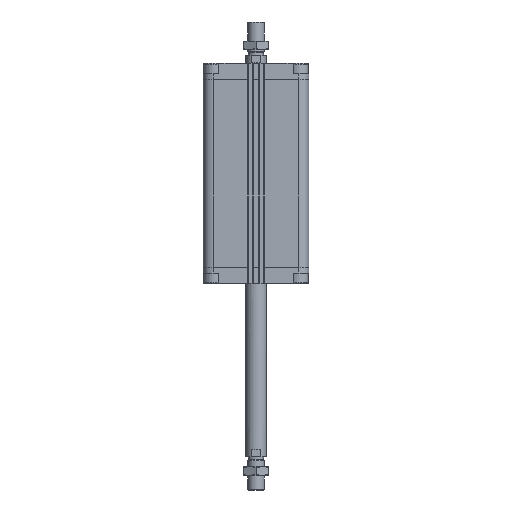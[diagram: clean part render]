
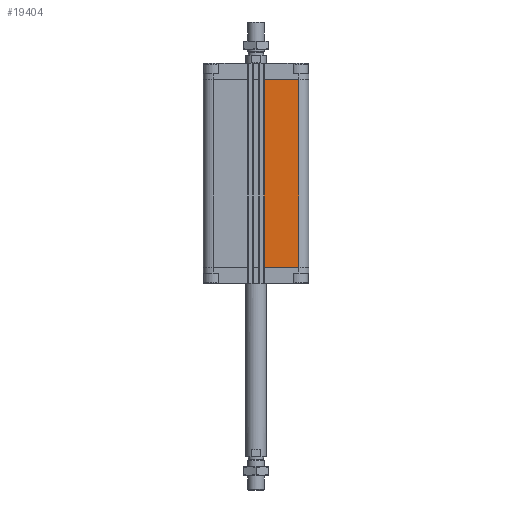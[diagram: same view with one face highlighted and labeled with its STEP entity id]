
A CAD part, front view. The second image highlights one B-rep face of the part: STEP entity #19404.
In plain terms, the highlighted planar face has unit normal (0, -1, 0).
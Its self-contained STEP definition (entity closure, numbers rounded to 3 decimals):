
#291 = CARTESIAN_POINT ( 'NONE',  ( 51.5, -64., -247. ) ) ;
#1529 = LINE ( 'NONE', #8654, #6081 ) ;
#1570 = EDGE_CURVE ( 'NONE', #6529, #17184, #1529, .T. ) ;
#2169 = CARTESIAN_POINT ( 'NONE',  ( 9.95, -64., -19.5 ) ) ;
#3032 = EDGE_CURVE ( 'NONE', #18919, #6529, #10378, .T. ) ;
#3599 = CARTESIAN_POINT ( 'NONE',  ( 51.5, -64., -19.5 ) ) ;
#3695 = VECTOR ( 'NONE', #8116, 1000. ) ;
#5766 = CARTESIAN_POINT ( 'NONE',  ( 9.95, -64., -247. ) ) ;
#6081 = VECTOR ( 'NONE', #15775, 1000. ) ;
#6486 = CARTESIAN_POINT ( 'NONE',  ( 9.95, -64., -247. ) ) ;
#6529 = VERTEX_POINT ( 'NONE', #2169 ) ;
#6541 = DIRECTION ( 'NONE',  ( -1., 0., 0. ) ) ;
#6682 = AXIS2_PLACEMENT_3D ( 'NONE', #9695, #17163, #6541 ) ;
#7169 = DIRECTION ( 'NONE',  ( 0., 0., 1. ) ) ;
#7959 = ORIENTED_EDGE ( 'NONE', *, *, #3032, .F. ) ;
#8116 = DIRECTION ( 'NONE',  ( 1., 0., 0. ) ) ;
#8654 = CARTESIAN_POINT ( 'NONE',  ( 9.95, -64., -19.5 ) ) ;
#8990 = ORIENTED_EDGE ( 'NONE', *, *, #19755, .T. ) ;
#9695 = CARTESIAN_POINT ( 'NONE',  ( 9.95, -64., -247. ) ) ;
#10031 = CARTESIAN_POINT ( 'NONE',  ( 9.95, -64., -247. ) ) ;
#10222 = ORIENTED_EDGE ( 'NONE', *, *, #17654, .T. ) ;
#10349 = LINE ( 'NONE', #6486, #3695 ) ;
#10378 = LINE ( 'NONE', #10031, #21458 ) ;
#10901 = LINE ( 'NONE', #12758, #15236 ) ;
#11452 = PLANE ( 'NONE',  #6682 ) ;
#11799 = FACE_OUTER_BOUND ( 'NONE', #14534, .T. ) ;
#12758 = CARTESIAN_POINT ( 'NONE',  ( 51.5, -64., -247. ) ) ;
#14534 = EDGE_LOOP ( 'NONE', ( #15648, #7959, #8990, #10222 ) ) ;
#15236 = VECTOR ( 'NONE', #7169, 1000. ) ;
#15648 = ORIENTED_EDGE ( 'NONE', *, *, #1570, .F. ) ;
#15775 = DIRECTION ( 'NONE',  ( 1., 0., 0. ) ) ;
#17163 = DIRECTION ( 'NONE',  ( 0., -1., 0. ) ) ;
#17184 = VERTEX_POINT ( 'NONE', #3599 ) ;
#17654 = EDGE_CURVE ( 'NONE', #18837, #17184, #10901, .T. ) ;
#18837 = VERTEX_POINT ( 'NONE', #291 ) ;
#18919 = VERTEX_POINT ( 'NONE', #5766 ) ;
#18998 = DIRECTION ( 'NONE',  ( 0., 0., 1. ) ) ;
#19404 = ADVANCED_FACE ( 'NONE', ( #11799 ), #11452, .T. ) ;
#19755 = EDGE_CURVE ( 'NONE', #18919, #18837, #10349, .T. ) ;
#21458 = VECTOR ( 'NONE', #18998, 1000. ) ;
